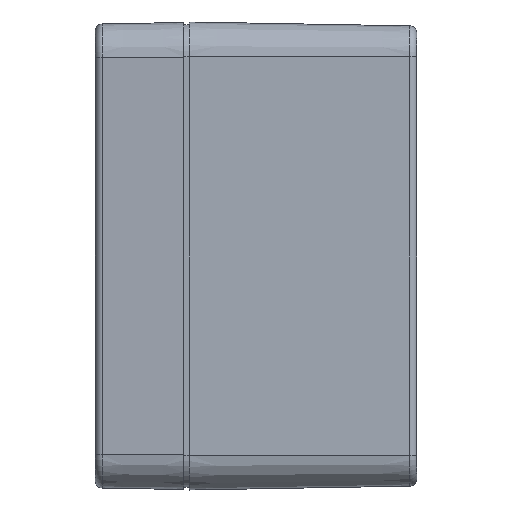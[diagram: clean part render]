
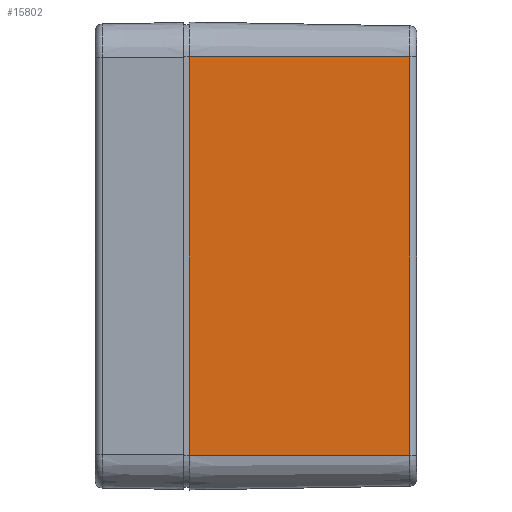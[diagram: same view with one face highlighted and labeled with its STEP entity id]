
A CAD part, left-side view. The second image highlights one B-rep face of the part: STEP entity #15802.
In plain terms, the highlighted planar face has unit normal (-1, -0.018, 0).
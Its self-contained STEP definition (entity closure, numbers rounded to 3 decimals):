
#486 = CARTESIAN_POINT ( 'NONE',  ( -60.05, 0., 34.05 ) ) ;
#2908 = CARTESIAN_POINT ( 'NONE',  ( -60.05, 0., 34.05 ) ) ;
#3055 = EDGE_CURVE ( 'NONE', #24902, #9859, #48919, .T. ) ;
#3436 = ORIENTED_EDGE ( 'NONE', *, *, #33327, .T. ) ;
#3760 = VERTEX_POINT ( 'NONE', #39246 ) ;
#4500 = CARTESIAN_POINT ( 'NONE',  ( -60.033, -1., 34.05 ) ) ;
#4631 = CARTESIAN_POINT ( 'NONE',  ( -60.033, -1., 34.05 ) ) ;
#7244 = DIRECTION ( 'NONE',  ( -0.017, 1., 0. ) ) ;
#7726 = VECTOR ( 'NONE', #15165, 1000. ) ;
#9859 = VERTEX_POINT ( 'NONE', #46906 ) ;
#11282 = EDGE_LOOP ( 'NONE', ( #43056, #18318, #26422, #3436 ) ) ;
#11537 = DIRECTION ( 'NONE',  ( 0., 0., 1. ) ) ;
#15165 = DIRECTION ( 'NONE',  ( 0., 0., -1. ) ) ;
#15588 = DIRECTION ( 'NONE',  ( 0.017, -1., 0. ) ) ;
#15802 = ADVANCED_FACE ( 'NONE', ( #33446 ), #48585, .T. ) ;
#17249 = EDGE_CURVE ( 'NONE', #3760, #22985, #21756, .T. ) ;
#18033 = DIRECTION ( 'NONE',  ( -0.017, 1., 0. ) ) ;
#18318 = ORIENTED_EDGE ( 'NONE', *, *, #28279, .T. ) ;
#21756 = LINE ( 'NONE', #2908, #42264 ) ;
#22343 = CARTESIAN_POINT ( 'NONE',  ( -59.375, -38.672, -34.05 ) ) ;
#22985 = VERTEX_POINT ( 'NONE', #4631 ) ;
#23233 = CARTESIAN_POINT ( 'NONE',  ( -59.375, -38.672, 34.05 ) ) ;
#24902 = VERTEX_POINT ( 'NONE', #22343 ) ;
#26422 = ORIENTED_EDGE ( 'NONE', *, *, #3055, .F. ) ;
#28279 = EDGE_CURVE ( 'NONE', #22985, #9859, #38482, .T. ) ;
#30884 = VECTOR ( 'NONE', #11537, 1000. ) ;
#33273 = VECTOR ( 'NONE', #7244, 1000. ) ;
#33327 = EDGE_CURVE ( 'NONE', #24902, #3760, #34849, .T. ) ;
#33446 = FACE_OUTER_BOUND ( 'NONE', #11282, .T. ) ;
#34849 = LINE ( 'NONE', #23233, #30884 ) ;
#38482 = LINE ( 'NONE', #4500, #7726 ) ;
#39246 = CARTESIAN_POINT ( 'NONE',  ( -59.375, -38.672, 34.05 ) ) ;
#41719 = CARTESIAN_POINT ( 'NONE',  ( -60.05, 0., -34.05 ) ) ;
#42128 = DIRECTION ( 'NONE',  ( -1., -0.017, 0. ) ) ;
#42264 = VECTOR ( 'NONE', #18033, 1000. ) ;
#43056 = ORIENTED_EDGE ( 'NONE', *, *, #17249, .T. ) ;
#44742 = AXIS2_PLACEMENT_3D ( 'NONE', #486, #42128, #15588 ) ;
#46906 = CARTESIAN_POINT ( 'NONE',  ( -60.033, -1., -34.05 ) ) ;
#48585 = PLANE ( 'NONE',  #44742 ) ;
#48919 = LINE ( 'NONE', #41719, #33273 ) ;
